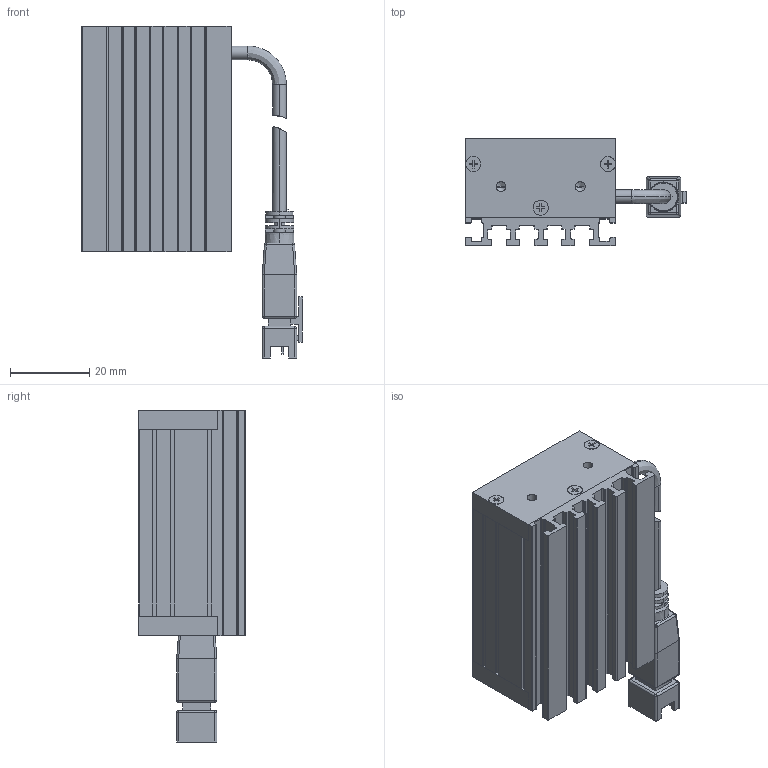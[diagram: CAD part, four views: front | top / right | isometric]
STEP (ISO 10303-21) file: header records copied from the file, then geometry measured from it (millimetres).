
FILE_DESCRIPTION (( 'STEP AP203' ), '1' );
FILE_NAME ('CK-BL5738.STEP', '2026-01-05T01:13:49', ( '' ), ( '' ), 'SwSTEP 2.0', 'SolidWorks 2022', '' );
FILE_SCHEMA (( 'CONFIG_CONTROL_DESIGN' ));
Length unit declared in the file: millimetre
Products named in the file (8): CK-BL5738-004A; 光源线; CK-BL5738; 十字沉头螺丝 M2x10; 38散热圭胶; CK-BL5738-003A; CK5738-001A; CK-BL5738-002A
Assembly tree (13 placements, depth 2):
  CK-BL5738
    CK5738-001A
    CK-BL5738-002A  x2
    CK-BL5738-003A
    CK-BL5738-004A
    38散热圭胶
    光源线
    十字沉头螺丝 M2x10  x6
Bounding box: 55.84 x 27 x 83.8 mm (x, y, z)
Volume: 39266.4 mm3; surface area: 33851 mm2
Topology: 15 solids, 15 shells, 739 faces, 1920 edges, 1234 vertices
Faces by surface type: plane 447, cylinder 214, cone 46, bspline 32
Entity records: 19327 total; most frequent: CARTESIAN_POINT 3879, ORIENTED_EDGE 3054, DIRECTION 2951, EDGE_CURVE 1527, VECTOR 1095, LINE 1095, VERTEX_POINT 998, AXIS2_PLACEMENT_3D 928
